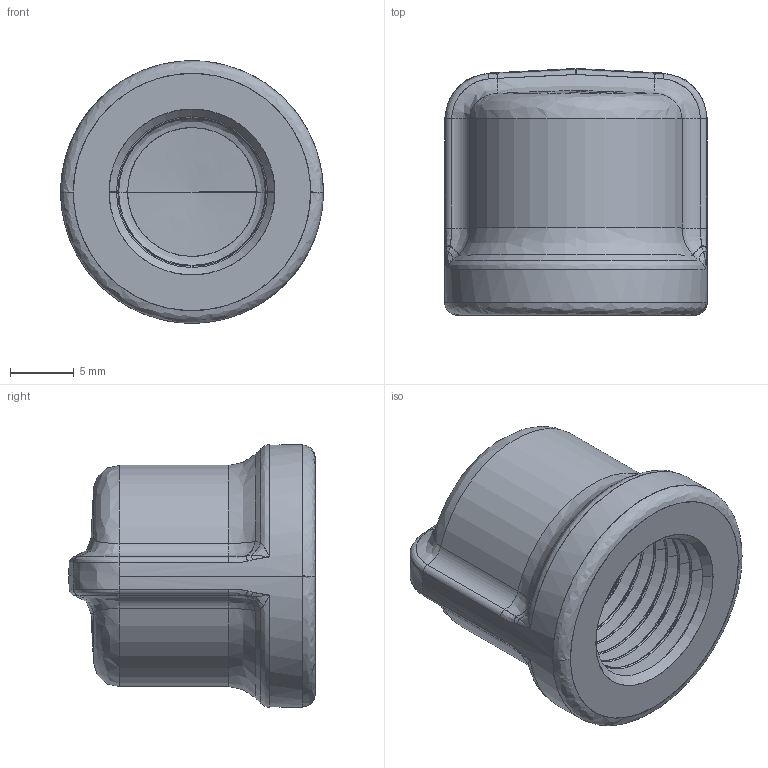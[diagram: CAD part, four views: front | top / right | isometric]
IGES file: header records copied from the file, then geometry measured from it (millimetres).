
Start section: SolidWorks IGES file using analytic representation for surfaces
Global section: file name: C:\Users\Joel Rosa\Desktop\Tubulação\12-42-XXX\12-42-002.IGS; native system: SolidWorks 2011; preprocessor: SolidWorks 2011; author: Joel Rosa; date: 130923.225907; units: millimetre
Bounding box: 20.6 x 19.36 x 20.6 mm (x, y, z)
Surface area: 2489 mm2 (no closed solid volume)
Topology: 0 solids, 0 shells, 255 faces, 1987 edges, 1979 vertices
Faces by surface type: bspline 190, revolution 65
